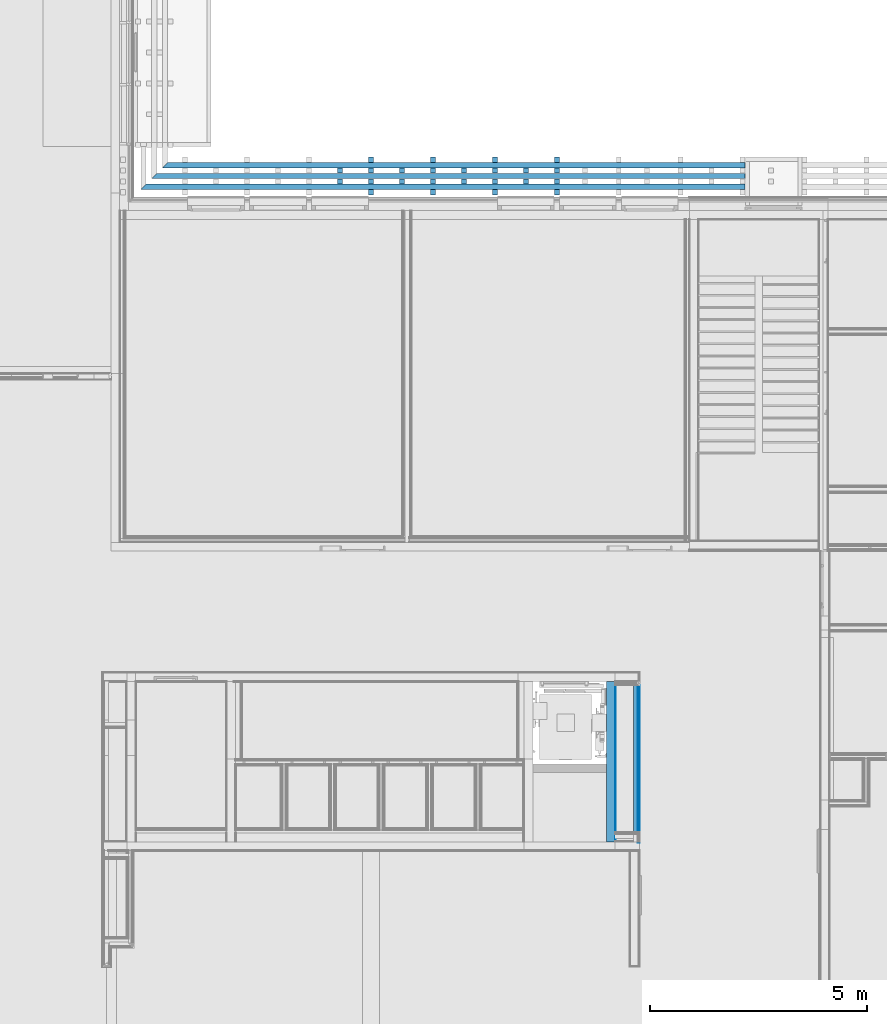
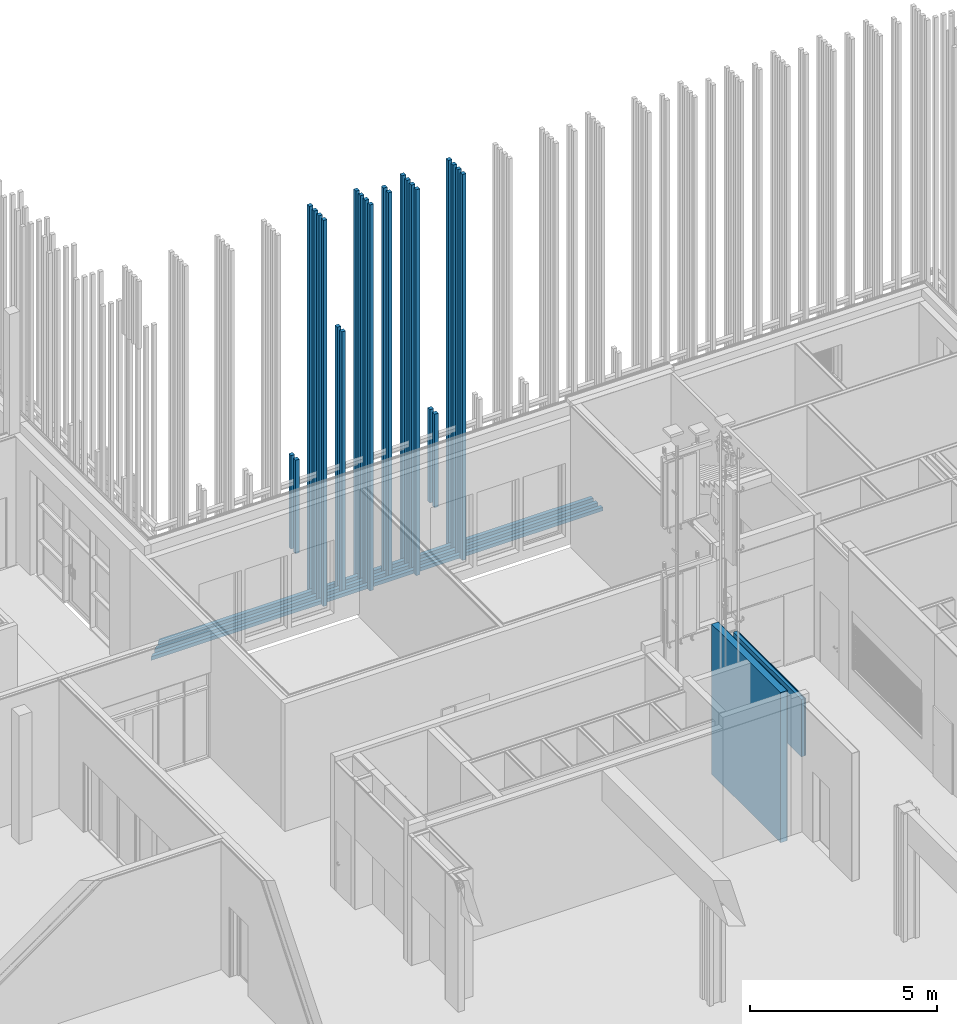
# One storey, part 185 of 260: 9 discrete accessories, 6 building element parts, 2 elements without a shape of their own.
"""IFC2X3 building model written with IfcOpenShell, lengths in millimetres."""

from ifc_helpers import new_model, entity, si_unit, converted_unit, derived_unit, money_unit, direction, frame, origin_with_axes, place, context, subcontext, project, spatial, faceted_brep, material, material_list, type_object, element, aggregate, save


model = new_model("IFC2X3")

# Units and contexts
model_context = context("Model", 3, precision=0.01, world=origin_with_axes(), true_north=direction((0.0, 1.0)))
body_context = subcontext(model_context, "Body", "Model", "MODEL_VIEW")
ifc_project = project(units=[si_unit("LENGTHUNIT", "METRE", prefix="MILLI"), si_unit("AREAUNIT", "SQUARE_METRE"), si_unit("VOLUMEUNIT", "CUBIC_METRE"), converted_unit("PLANEANGLEUNIT", "DEGREE", entity("IfcPlaneAngleMeasure", 0.0174532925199), si_unit("PLANEANGLEUNIT", "RADIAN"), dimensions=[0, 0, 0, 0, 0, 0, 0]), money_unit("EUR"), converted_unit("TIMEUNIT", "Year", entity("IfcTimeMeasure", 31556926.0), si_unit("TIMEUNIT", "SECOND"), dimensions=[0, 0, 1, 0, 0, 0, 0]), si_unit("MASSUNIT", "GRAM", prefix="KILO"), si_unit("THERMODYNAMICTEMPERATUREUNIT", "DEGREE_CELSIUS"), si_unit("LUMINOUSINTENSITYUNIT", "LUMEN"), si_unit("ENERGYUNIT", "JOULE", prefix="MEGA"), derived_unit("THERMALCONDUCTANCEUNIT", [(si_unit("POWERUNIT", "WATT"), 1), (si_unit("LENGTHUNIT", "METRE"), -1), (si_unit("THERMODYNAMICTEMPERATUREUNIT", "KELVIN"), -1)]), derived_unit("SPECIFICHEATCAPACITYUNIT", [(si_unit("ENERGYUNIT", "JOULE"), 1), (si_unit("MASSUNIT", "GRAM", prefix="KILO"), -1), (si_unit("THERMODYNAMICTEMPERATUREUNIT", "KELVIN"), -1)]), derived_unit("MASSDENSITYUNIT", [(si_unit("MASSUNIT", "GRAM", prefix="KILO"), 1), (si_unit("VOLUMEUNIT", "CUBIC_METRE"), -1)])], contexts=[model_context])

# Site, building, storey
site_placement = place(None, origin_with_axes())
site = spatial("IfcSite", under=ifc_project, at=site_placement, Name="Kolde pst 67a", CompositionType="ELEMENT")
building_placement = place(site_placement, origin_with_axes())
building = spatial("IfcBuilding", under=site, at=building_placement, Name="Riigigümnaasium", CompositionType="ELEMENT")
storey_placement = place(building_placement, origin_with_axes())
storey = spatial("IfcBuildingStorey", under=building, at=storey_placement, Name="1. korrus", CompositionType="ELEMENT", Elevation=0.0)

# Discrete accessories
ifc_material_1 = material(Name="_VÄLISVIIMISTLUS - sõrmjätkatud puitprussid 120x115mm, liitekohad vähemärgatavad, Platowood sõrmjätkatud kuusk või samaväärne; eeltöödeldud tuletõkkevõõbaga, tuletundlikkus B-s1, d0, Woodsafe Exterior WFX™ või samaväärne; kinnitused vastavalt EK osale")
ifc_material_list_1 = material_list([ifc_material_1, ifc_material_1, ifc_material_1, ifc_material_1])
discrete_accessory_type_1 = type_object("IfcDiscreteAccessoryType", Name="120 4-ne vertikaalne 870 x 115")
for number, where, z_axis, x_axis in (
    (1, (46542.494314, 60792.0001779, 280.0), (0.0, 0.0, 1.0), (3.13999128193e-06, -0.999999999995, 0.0)),
    (2, (45112.494314, 60791.9996584, 280.0), (0.0, 0.0, 1.0), (3.13999128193e-06, -0.999999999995, 0.0)),
    (3, (43682.494314, 60792.0001311, 280.0), (0.0, 0.0, 1.0), (3.13999128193e-06, -0.999999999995, 0.0)),
    (4, (42252.494314, 60791.9996584, 280.0), (0.0, 0.0, 1.0), (3.13999128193e-06, -0.999999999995, 0.0)),
):
    element("IfcDiscreteAccessory", number, at=place(storey_placement, frame(where, z_axis=z_axis, x_axis=x_axis)), inside=storey, type_object=discrete_accessory_type_1, material=ifc_material_list_1, Name="Päikesevarjestus", context=body_context, shape_type="Brep", body=[
        faceted_brep([(-133.0, -70.0, 0.0), (-13.0, -70.0, 0.0), (-13.0, -70.0, 12600.0), (-133.0, -70.0, 12600.0), (-133.0, 45.0, 0.0), (-13.0, 45.0, 0.0), (-13.0, 45.0, 12600.0), (-133.0, 45.0, 12600.0)], [[[0, 1, 2, 3]], [[0, 4, 5, 1]], [[1, 5, 6, 2]], [[3, 2, 6, 7]], [[4, 0, 3, 7]], [[5, 4, 7, 6]]]),
        faceted_brep([(-383.0, -70.0, 0.0), (-263.0, -70.0, 0.0), (-263.0, -70.0, 12600.0), (-383.0, -70.0, 12600.0), (-383.0, 45.0, 0.0), (-263.0, 45.0, 0.0), (-263.0, 45.0, 12600.0), (-383.0, 45.0, 12600.0)], [[[0, 1, 2, 3]], [[0, 4, 5, 1]], [[1, 5, 6, 2]], [[3, 2, 6, 7]], [[4, 0, 3, 7]], [[5, 4, 7, 6]]]),
        faceted_brep([(-633.0, -70.0, 0.0), (-513.0, -70.0, 0.0), (-513.0, -70.0, 12600.0), (-633.0, -70.0, 12600.0), (-633.0, 45.0, 0.0), (-513.0, 45.0, 0.0), (-513.0, 45.0, 12600.0), (-633.0, 45.0, 12600.0)], [[[0, 1, 2, 3]], [[0, 4, 5, 1]], [[1, 5, 6, 2]], [[3, 2, 6, 7]], [[4, 0, 3, 7]], [[5, 4, 7, 6]]]),
        faceted_brep([(-883.0, -70.0, 0.0), (-763.0, -70.0, 0.0), (-763.0, -70.0, 12600.0), (-883.0, -70.0, 12600.0), (-883.0, 45.0, 0.0), (-763.0, 45.0, 0.0), (-763.0, 45.0, 12600.0), (-883.0, 45.0, 12600.0)], [[[0, 1, 2, 3]], [[0, 4, 5, 1]], [[1, 5, 6, 2]], [[3, 2, 6, 7]], [[4, 0, 3, 7]], [[5, 4, 7, 6]]]),
    ])
ifc_material_list_2 = material_list([ifc_material_1, ifc_material_1, ifc_material_1])
discrete_accessory_type_2 = type_object("IfcDiscreteAccessoryType", Name="120 1+paiksekaitse 3 tk  620 x 115")
discrete_accessory_1_placement = place(storey_placement, frame((50879.9942732, 60804.9998075, 352.5), z_axis=(0.0, 0.0, 1.0), x_axis=(-2.11403094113e-08, 1.0, 0.0)))
element("IfcDiscreteAccessory", 5, at=discrete_accessory_1_placement, inside=storey, type_object=discrete_accessory_type_2, material=ifc_material_list_2, Name="Päikesevarjestus", context=body_context, shape_type="Brep", body=[
    faceted_brep([(625.0, 13451.9953767, 45.0), (625.0, 0.0, 45.0), (745.0, 0.0, 45.0), (745.0, 13331.9953741, 45.0), (625.0, 13451.9953767, -70.0), (625.0, 0.0, -70.0), (745.0, 0.0, -70.0), (745.0, 13331.9953741, -70.0)], [[[0, 1, 2, 3]], [[4, 5, 1, 0]], [[5, 6, 2, 1]], [[3, 2, 6, 7]], [[4, 0, 3, 7]], [[7, 6, 5, 4]]]),
    faceted_brep([(375.0, 13701.9953819, 45.0), (375.0, 0.0, 45.0), (495.0, 0.0, 45.0), (495.0, 13581.9953794, 45.0), (375.0, 13701.9953819, -70.0), (375.0, 0.0, -70.0), (495.0, 0.0, -70.0), (495.0, 13581.9953794, -70.0)], [[[0, 1, 2, 3]], [[4, 5, 1, 0]], [[5, 6, 2, 1]], [[3, 2, 6, 7]], [[4, 0, 3, 7]], [[7, 6, 5, 4]]]),
    faceted_brep([(125.0, 13951.9953872, 45.0), (125.0, 0.0, 45.0), (245.0, 0.0, 45.0), (245.0, 13831.9953847, 45.0), (125.0, 13951.9953872, -70.0), (125.0, 0.0, -70.0), (245.0, 0.0, -70.0), (245.0, 13831.9953847, -70.0)], [[[0, 1, 2, 3]], [[4, 5, 1, 0]], [[5, 6, 2, 1]], [[3, 2, 6, 7]], [[4, 0, 3, 7]], [[7, 6, 5, 4]]]),
])
ifc_material_list_3 = material_list([ifc_material_1, ifc_material_1])
discrete_accessory_type_3 = type_object("IfcDiscreteAccessoryType", Name="1+paiksekaitse 3 370 x 115")
discrete_accessory_2_placement = place(storey_placement, frame((42895.0059762, 61772.0001843, 280.0), z_axis=(0.0, 0.0, 1.0), x_axis=(0.0, -1.0, 0.0)))
element("IfcDiscreteAccessory", 6, at=discrete_accessory_2_placement, inside=storey, type_object=discrete_accessory_type_3, material=ifc_material_list_3, Name="Päikesevarjestus", context=body_context, shape_type="Brep", body=[
    faceted_brep([(467.0, 117.5, 0.0), (347.0, 117.5, 0.0), (347.0, 117.5, 8560.0), (467.0, 117.5, 8560.0), (467.0, 2.5, 0.0), (347.0, 2.5, 0.0), (347.0, 2.5, 8560.0), (467.0, 2.5, 8560.0)], [[[0, 1, 2, 3]], [[0, 4, 5, 1]], [[1, 5, 6, 2]], [[3, 2, 6, 7]], [[4, 0, 3, 7]], [[5, 4, 7, 6]]]),
    faceted_brep([(717.0, 117.5, 0.0), (597.0, 117.5, 0.0), (597.0, 117.5, 8560.0), (717.0, 117.5, 8560.0), (717.0, 2.5, 0.0), (597.0, 2.5, 0.0), (597.0, 2.5, 8560.0), (717.0, 2.5, 8560.0)], [[[0, 1, 2, 3]], [[0, 4, 5, 1]], [[1, 5, 6, 2]], [[3, 2, 6, 7]], [[4, 0, 3, 7]], [[5, 4, 7, 6]]]),
])
discrete_accessory_3_placement = place(storey_placement, frame((45755.0059762, 61772.0001843, 2100.00014213), z_axis=(0.0, 0.0, 1.0), x_axis=(0.0, -1.0, 0.0)))
element("IfcDiscreteAccessory", 7, at=discrete_accessory_3_placement, inside=storey, type_object=discrete_accessory_type_3, material=ifc_material_list_3, Name="Päikesevarjestus", context=body_context, shape_type="Brep", body=[
    faceted_brep([(467.0, 117.5, 0.0), (347.0, 117.5, 0.0), (347.0, 117.5, 3050.0), (467.0, 117.5, 3050.0), (467.0, 2.5, 0.0), (347.0, 2.5, 0.0), (347.0, 2.5, 3050.0), (467.0, 2.5, 3050.0)], [[[0, 1, 2, 3]], [[0, 4, 5, 1]], [[1, 5, 6, 2]], [[3, 2, 6, 7]], [[4, 0, 3, 7]], [[5, 4, 7, 6]]]),
    faceted_brep([(717.0, 117.5, 0.0), (597.0, 117.5, 0.0), (597.0, 117.5, 3050.0), (717.0, 117.5, 3050.0), (717.0, 2.5, 0.0), (597.0, 2.5, 0.0), (597.0, 2.5, 3050.0), (717.0, 2.5, 3050.0)], [[[0, 1, 2, 3]], [[0, 4, 5, 1]], [[1, 5, 6, 2]], [[3, 2, 6, 7]], [[4, 0, 3, 7]], [[5, 4, 7, 6]]]),
])
discrete_accessory_4_placement = place(storey_placement, frame((44325.0059762, 61772.0001843, 279.981322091), z_axis=(0.0, 0.0, 1.0), x_axis=(0.0, -1.0, 0.0)))
element("IfcDiscreteAccessory", 8, at=discrete_accessory_4_placement, inside=storey, type_object=discrete_accessory_type_3, material=ifc_material_list_3, Name="Päikesevarjestus", context=body_context, shape_type="Brep", body=[
    faceted_brep([(467.0, 117.5, 0.0), (347.0, 117.5, 0.0), (347.0, 117.5, 12600.0), (467.0, 117.5, 12600.0), (467.0, 2.5, 0.0), (347.0, 2.5, 0.0), (347.0, 2.5, 12600.0), (467.0, 2.5, 12600.0)], [[[0, 1, 2, 3]], [[0, 4, 5, 1]], [[1, 5, 6, 2]], [[3, 2, 6, 7]], [[4, 0, 3, 7]], [[5, 4, 7, 6]]]),
    faceted_brep([(717.0, 117.5, 0.0), (597.0, 117.5, 0.0), (597.0, 117.5, 12600.0), (717.0, 117.5, 12600.0), (717.0, 2.5, 0.0), (597.0, 2.5, 0.0), (597.0, 2.5, 12600.0), (717.0, 2.5, 12600.0)], [[[0, 1, 2, 3]], [[0, 4, 5, 1]], [[1, 5, 6, 2]], [[3, 2, 6, 7]], [[4, 0, 3, 7]], [[5, 4, 7, 6]]]),
])
discrete_accessory_5_placement = place(storey_placement, frame((41465.0059762, 61772.0001843, 2100.00014213), z_axis=(0.0, 0.0, 1.0), x_axis=(0.0, -1.0, 0.0)))
element("IfcDiscreteAccessory", 9, at=discrete_accessory_5_placement, inside=storey, type_object=discrete_accessory_type_3, material=ifc_material_list_3, Name="Päikesevarjestus", context=body_context, shape_type="Brep", body=[
    faceted_brep([(467.0, 117.5, 0.0), (347.0, 117.5, 0.0), (347.0, 117.5, 3050.0), (467.0, 117.5, 3050.0), (467.0, 2.5, 0.0), (347.0, 2.5, 0.0), (347.0, 2.5, 3050.0), (467.0, 2.5, 3050.0)], [[[0, 1, 2, 3]], [[0, 4, 5, 1]], [[1, 5, 6, 2]], [[3, 2, 6, 7]], [[4, 0, 3, 7]], [[5, 4, 7, 6]]]),
    faceted_brep([(717.0, 117.5, 0.0), (597.0, 117.5, 0.0), (597.0, 117.5, 3050.0), (717.0, 117.5, 3050.0), (717.0, 2.5, 0.0), (597.0, 2.5, 0.0), (597.0, 2.5, 3050.0), (717.0, 2.5, 3050.0)], [[[0, 1, 2, 3]], [[0, 4, 5, 1]], [[1, 5, 6, 2]], [[3, 2, 6, 7]], [[4, 0, 3, 7]], [[5, 4, 7, 6]]]),
])

# Wall, building element parts
wall_type_1 = type_object("IfcWallType", Name="SS-RB-20/5_+1 plaat 215", PredefinedType="NOTDEFINED")
wall_1_placement = place(storey_placement, frame((47874.9854607, 49569.9999599, -300.2), z_axis=(0.0, 0.0, 1.0), x_axis=(0.0, -1.0, 0.0)))
wall_1 = element("IfcWall", 10, at=wall_1_placement, inside=storey, type_object=wall_type_1, Name="Sisesein")
ifc_material_2 = material(Name="_VIIMISTLUSKIHT - viimistlus vastavalt SA osale")
building_element_part_1_placement = place(wall_1_placement, origin_with_axes())
building_element_part_1 = element("IfcBuildingElementPart", 11, at=building_element_part_1_placement, material=ifc_material_2, Name="_VIIMISTLUSKIHT - viimistlus vastavalt SA osale", context=body_context, shape_type="Brep", body=[
    faceted_brep([(3700.0, 0.0, 4900.2), (3700.0, 15.0, 4900.2), (0.0, 15.0, 4900.2), (0.0, 0.0, 4900.2), (3700.0, 0.0, 0.0), (3700.0, 15.0, 0.0), (0.0, 15.0, 0.0), (0.0, 0.0, 0.0)], [[[0, 1, 2, 3]], [[0, 4, 5, 1]], [[1, 5, 6, 2]], [[3, 2, 6, 7]], [[4, 0, 3, 7]], [[5, 4, 7, 6]]]),
])
ifc_material_3 = material(Name="_KANDETARIND - monteeritav raudbetoon vastavalt EK osale")
building_element_part_2_placement = place(wall_1_placement, origin_with_axes())
building_element_part_2 = element("IfcBuildingElementPart", 12, at=building_element_part_2_placement, material=ifc_material_3, Name="_KANDETARIND - monteeritav raudbetoon vastavalt EK osale", context=body_context, shape_type="Brep", body=[
    faceted_brep([(3700.0, -200.0, 4900.2), (3700.0, 0.0, 4900.2), (0.0, 0.0, 4900.2), (0.0, -200.0, 4900.2), (3700.0, -200.0, 0.0), (3700.0, 0.0, 0.0), (0.0, 0.0, 0.0), (0.0, -200.0, 0.0)], [[[0, 1, 2, 3]], [[0, 4, 5, 1]], [[1, 5, 6, 2]], [[3, 2, 6, 7]], [[4, 0, 3, 7]], [[5, 4, 7, 6]]]),
])
aggregate(wall_1, [building_element_part_1, building_element_part_2])

wall_type_2 = type_object("IfcWallType", Name="SS-MK-10/2_šahti sein+plaat 140", PredefinedType="NOTDEFINED")
wall_2_placement = place(storey_placement, frame((48439.9854607, 49484.9999599, 2300.0), z_axis=(0.0, 0.0, 1.0), x_axis=(0.0, -1.0, 0.0)))
wall_2 = element("IfcWall", 13, at=wall_2_placement, inside=storey, type_object=wall_type_2, Name="Sisesein")
building_element_part_3_placement = place(wall_2_placement, origin_with_axes())
building_element_part_3 = element("IfcBuildingElementPart", 14, at=building_element_part_3_placement, material=ifc_material_2, Name="_VIIMISTLUSKIHT - viimistlus vastavalt SA osale", context=body_context, shape_type="Brep", body=[
    faceted_brep([(0.0, -15.0, 1870.0), (0.0, 0.0, 1870.0), (0.0, 0.0, 0.0), (0.0, -15.0, 0.0), (3640.0, 0.0, 1870.0), (3640.0, -15.0, 1870.0), (3640.0, 0.0, 0.0), (3640.0, -15.0, 0.0)], [[[0, 1, 2, 3]], [[4, 1, 0, 5]], [[1, 4, 6, 2]], [[7, 3, 2, 6]], [[5, 0, 3, 7]], [[4, 5, 7, 6]]]),
])
ifc_material_4 = material(Name="_PLAATMATERJAL - kipsplaat veekindel")
building_element_part_4_placement = place(wall_2_placement, origin_with_axes())
building_element_part_4 = element("IfcBuildingElementPart", 15, at=building_element_part_4_placement, material=ifc_material_4, Name="_PLAATMATERJAL - kipsplaat veekindel", context=body_context, shape_type="Brep", body=[
    faceted_brep([(0.0, -27.5, 1870.0), (0.0, -15.0, 1870.0), (0.0, -15.0, 0.0), (0.0, -27.5, 0.0), (3640.0, -15.0, 1870.0), (3640.0, -27.5, 1870.0), (3640.0, -15.0, 0.0), (3640.0, -27.5, 0.0)], [[[0, 1, 2, 3]], [[4, 1, 0, 5]], [[1, 4, 6, 2]], [[7, 3, 2, 6]], [[5, 0, 3, 7]], [[4, 5, 7, 6]]]),
])
building_element_part_5_placement = place(wall_2_placement, origin_with_axes())
building_element_part_5 = element("IfcBuildingElementPart", 16, at=building_element_part_5_placement, material=ifc_material_4, Name="_PLAATMATERJAL - kipsplaat veekindel", context=body_context, shape_type="Brep", body=[
    faceted_brep([(0.0, -40.0, 1870.0), (0.0, -27.5, 1870.0), (0.0, -27.5, 0.0), (0.0, -40.0, 0.0), (3640.0, -27.5, 1870.0), (3640.0, -40.0, 1870.0), (3640.0, -27.5, 0.0), (3640.0, -40.0, 0.0)], [[[0, 1, 2, 3]], [[4, 1, 0, 5]], [[1, 4, 6, 2]], [[7, 3, 2, 6]], [[5, 0, 3, 7]], [[4, 5, 7, 6]]]),
])
ifc_material_5 = material(Name="_KARKASS - metallkarkass CW 100/50/06 ja UW 100/40/06, samm 600, vahel mineraalvill, helineeldetegur αw = 1.0,  ISOVER ACOUSTIC 100mm või samaväärne")
building_element_part_6_placement = place(wall_2_placement, origin_with_axes())
building_element_part_6 = element("IfcBuildingElementPart", 17, at=building_element_part_6_placement, material=ifc_material_5, Name="_KARKASS - metallkarkass CW 100/50/06 ja UW 100/40/06, samm 600, vahel mineraalvill, helineeldetegur αw = 1.0,  ISOVER ACOUSTIC 100mm või samaväärne", context=body_context, shape_type="Brep", body=[
    faceted_brep([(0.0, -140.0, 1870.0), (0.0, -40.0, 1870.0), (0.0, -40.0, 0.0), (0.0, -140.0, 0.0), (3640.0, -40.0, 1870.0), (3640.0, -140.0, 1870.0), (3640.0, -40.0, 0.0), (3640.0, -140.0, 0.0)], [[[0, 1, 2, 3]], [[4, 1, 0, 5]], [[1, 4, 6, 2]], [[7, 3, 2, 6]], [[5, 0, 3, 7]], [[4, 5, 7, 6]]]),
])
aggregate(wall_2, [building_element_part_3, building_element_part_4, building_element_part_5, building_element_part_6])

save(model, "model.ifc")
